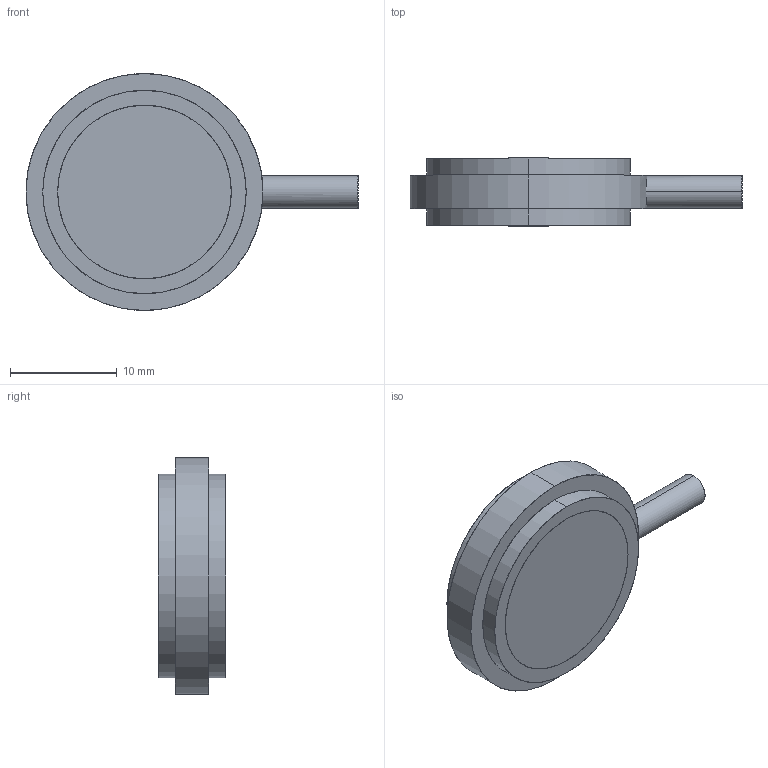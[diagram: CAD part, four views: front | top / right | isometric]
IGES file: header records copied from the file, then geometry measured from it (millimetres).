
Start section: SolidWorks IGES file using analytic representation for surfaces
Global section: file name: C:\Documents and Settings\Administrator\My Documents\EDI\3D\finished sensors\4SB.IGS; native system: SolidWorks 2008; preprocessor: SolidWorks 2008; author: Administrator; date: 100304.193444; units: inch
Bounding box: 31.1 x 6.34 x 22.2 mm (x, y, z)
Surface area: 1269.2 mm2 (no closed solid volume)
Topology: 0 solids, 0 shells, 19 faces, 454 edges, 454 vertices
Faces by surface type: revolution 12, bspline 7
